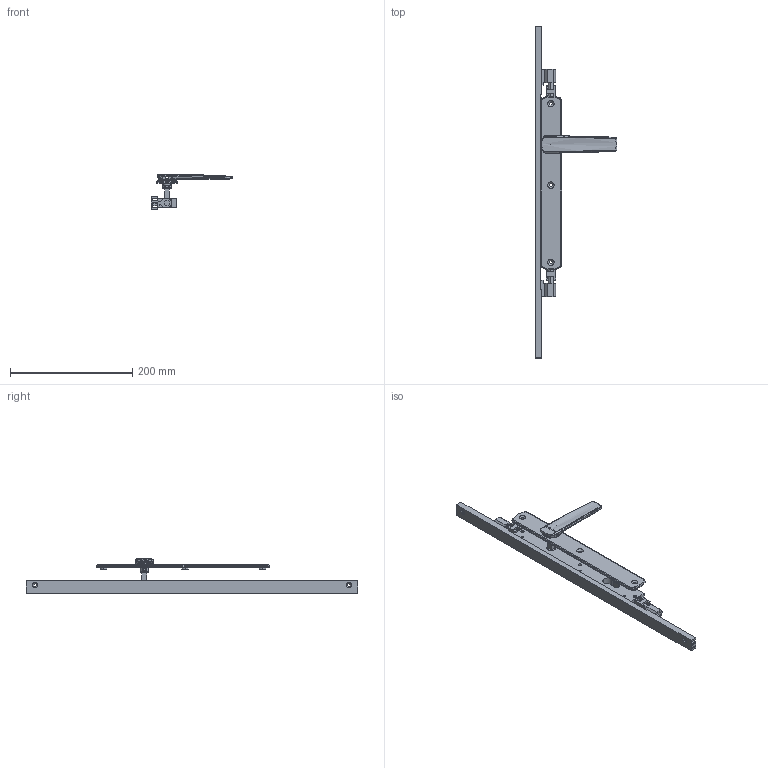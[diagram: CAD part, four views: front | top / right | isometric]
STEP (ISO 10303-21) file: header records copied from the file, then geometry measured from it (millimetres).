
FILE_DESCRIPTION (( 'STEP AP214' ), '1' );
FILE_NAME ('TPL-W-APC-608-U 28Oct2024.STEP', '2024-10-28T03:43:28', ( '' ), ( '' ), 'SwSTEP 2.0', 'SolidWorks 2023', '' );
FILE_SCHEMA (( 'AUTOMOTIVE_DESIGN' ));
Length unit declared in the file: millimetre
Products named in the file (18): Copy of LKC-505 Swing handle zinc - simplified^Copy of TPGen2 handle non-keyed long zinc - simplified_TPL-W-APC-108 18Oct2024; Copy of LKC-584 Pivot body zinc - simplified^Copy of TPGen2 handle non-keyed long zinc - simplified_TPL-W-APC-108 18Oct2024; Copy of TPLGen2 lock body keyed^Copy of TPLGen2 lock body keyed assembly_TPL-W-APC-108 18Oct2024_Right; Copy of LKC-586 Spindle square 8mm with M4 hole^Copy of TPGen2 handle non-keyed long zinc - simplified_TPL-W-APC-108 18Oct2024_37mm; Adapter C - simplfied^TPL-W-APC-108 18Oct2024; Bottom twinpoint transmission rod wood system^TPL-W-APC-108 18Oct2024_Standard Range 2891.7mm; Copy of COV-115-C Cover C suit TPLGen2 standard range AU^TPL-W-APC-108 18Oct2024; Copy of COV-115-A Cover A suit TPLGen2 standard range AU with hinge holes^TPL-W-APC-108 18Oct2024_2870mm; Copy of TPGen2 handle non-keyed long zinc - simplified^TPL-W-APC-108 18Oct2024_Right; Copy of TPLGen2 push rod - simplified^Copy of TPLGen2 lock body keyed assembly_TPL-W-APC-108 18Oct2024_Female thread M10; TPL-W-APC-608-U 28Oct2024; Copy of LKC-531-A Rod TPLGen2 machined bolt end^TPL-W-APC-108 18Oct2024_LKC-531-A-M003; Copy of COV-115-B Cover B suit TPLGen2 standard range AU with hinge holes^TPL-W-APC-108 18Oct2024_2870mm; Adapter D - simplfied^TPL-W-APC-108 18Oct2024; Bolt.step; Copy of LKC-583 Escutcheon plate unkeyed 285mm long zinc - simplified^Copy of TPGen2 handle non-keyed long zinc - simplified_TPL-W-APC-108 18Oct2024; Copy of LKC-585 Rotator body zinc^Copy of TPGen2 handle non-keyed long zinc - simplified_TPL-W-APC-108 18Oct2024; Copy of TPLGen2 lock body keyed assembly^TPL-W-APC-108 18Oct2024_Bolts retracted - right
Assembly tree (15 placements, depth 3):
  Copy of COV-115-A Cover A suit TPLGen2 standard range AU with hinge holes^TPL-W-APC-108 18Oct2024_2870mm
  TPL-W-APC-608-U 28Oct2024
    Copy of TPLGen2 lock body keyed assembly^TPL-W-APC-108 18Oct2024_Bolts retracted - right
      Copy of TPLGen2 lock body keyed^Copy of TPLGen2 lock body keyed assembly_TPL-W-APC-108 18Oct2024_Right
      Copy of TPLGen2 push rod - simplified^Copy of TPLGen2 lock body keyed assembly_TPL-W-APC-108 18Oct2024_Female thread M10  x2
    Copy of TPGen2 handle non-keyed long zinc - simplified^TPL-W-APC-108 18Oct2024_Right
      Copy of LKC-583 Escutcheon plate unkeyed 285mm long zinc - simplified^Copy of TPGen2 handle non-keyed long zinc - simplified_TPL-W-APC-108 18Oct2024
      Copy of LKC-505 Swing handle zinc - simplified^Copy of TPGen2 handle non-keyed long zinc - simplified_TPL-W-APC-108 18Oct2024
      Copy of LKC-585 Rotator body zinc^Copy of TPGen2 handle non-keyed long zinc - simplified_TPL-W-APC-108 18Oct2024
      Copy of LKC-586 Spindle square 8mm with M4 hole^Copy of TPGen2 handle non-keyed long zinc - simplified_TPL-W-APC-108 18Oct2024_37mm
      Copy of LKC-584 Pivot body zinc - simplified^Copy of TPGen2 handle non-keyed long zinc - simplified_TPL-W-APC-108 18Oct2024
    Copy of COV-115-C Cover C suit TPLGen2 standard range AU^TPL-W-APC-108 18Oct2024
    Bottom twinpoint transmission rod wood system^TPL-W-APC-108 18Oct2024_Standard Range 2891.7mm
    Copy of LKC-531-A Rod TPLGen2 machined bolt end^TPL-W-APC-108 18Oct2024_LKC-531-A-M003
    Adapter D - simplfied^TPL-W-APC-108 18Oct2024
    Adapter C - simplfied^TPL-W-APC-108 18Oct2024
  Copy of COV-115-B Cover B suit TPLGen2 standard range AU with hinge holes^TPL-W-APC-108 18Oct2024_2870mm
  Bolt.step
Bounding box: 134.12 x 544 x 57.06 mm (x, y, z)
Volume: 265502.6 mm3; surface area: 130299.5 mm2
Topology: 13 solids, 13 shells, 773 faces, 1872 edges, 1150 vertices
Faces by surface type: plane 269, cylinder 198, bspline 176, cone 70, torus 52, sphere 8
Entity records: 27827 total; most frequent: CARTESIAN_POINT 11265, ORIENTED_EDGE 3552, DIRECTION 3118, EDGE_CURVE 1776, AXIS2_PLACEMENT_3D 1189, VERTEX_POINT 1090, EDGE_LOOP 824, LINE 740
